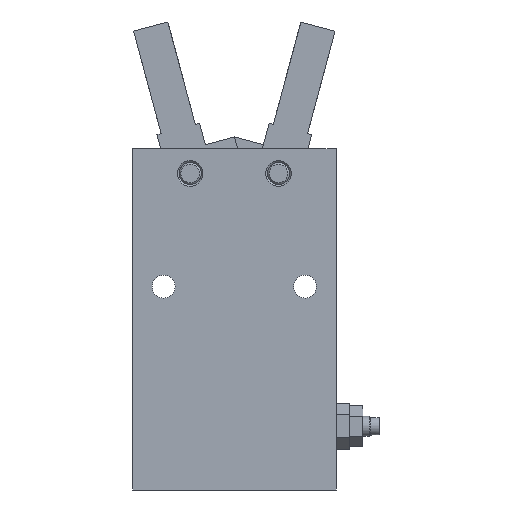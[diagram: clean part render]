
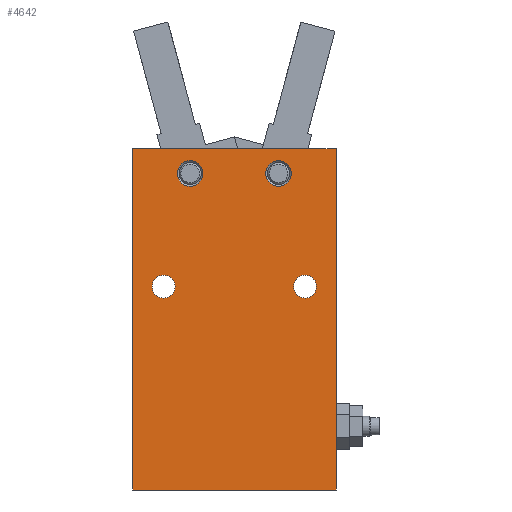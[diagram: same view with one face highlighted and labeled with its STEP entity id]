
A CAD part, front view. The second image highlights one B-rep face of the part: STEP entity #4642.
In plain terms, the highlighted planar face has unit normal (0, -1, 0).
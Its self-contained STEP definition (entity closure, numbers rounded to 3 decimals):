
#21 = EDGE_CURVE ( 'NONE', #873, #875, #1456, .T. ) ;
#84 = VERTEX_POINT ( 'NONE', #1532 ) ;
#234 = VERTEX_POINT ( 'NONE', #1751 ) ;
#235 = EDGE_CURVE ( 'NONE', #234, #236, #1750, .T. ) ;
#236 = VERTEX_POINT ( 'NONE', #1746 ) ;
#240 = EDGE_CURVE ( 'NONE', #833, #828, #1805, .T. ) ;
#785 = VERTEX_POINT ( 'NONE', #2629 ) ;
#787 = EDGE_CURVE ( 'NONE', #785, #789, #2627, .T. ) ;
#789 = VERTEX_POINT ( 'NONE', #2628 ) ;
#828 = VERTEX_POINT ( 'NONE', #2749 ) ;
#832 = EDGE_CURVE ( 'NONE', #828, #833, #2741, .T. ) ;
#833 = VERTEX_POINT ( 'NONE', #2737 ) ;
#873 = VERTEX_POINT ( 'NONE', #2788 ) ;
#874 = EDGE_CURVE ( 'NONE', #875, #873, #2787, .T. ) ;
#875 = VERTEX_POINT ( 'NONE', #2782 ) ;
#1296 = EDGE_CURVE ( 'NONE', #1298, #1306, #3575, .T. ) ;
#1298 = VERTEX_POINT ( 'NONE', #3570 ) ;
#1306 = VERTEX_POINT ( 'NONE', #3561 ) ;
#1452 = DIRECTION ( 'NONE',  ( 0., 0., -1. ) ) ;
#1453 = DIRECTION ( 'NONE',  ( 0., 1., 0. ) ) ;
#1454 = CARTESIAN_POINT ( 'NONE',  ( -8., -8.2, 3.7 ) ) ;
#1455 = AXIS2_PLACEMENT_3D ( 'NONE', #1454, #1453, #1452 ) ;
#1456 = CIRCLE ( 'NONE', #1455, 1.3 ) ;
#1532 = CARTESIAN_POINT ( 'NONE',  ( 11.5, -8.2, -19.3 ) ) ;
#1745 = CARTESIAN_POINT ( 'NONE',  ( 8., -8.2, 3.7 ) ) ;
#1746 = CARTESIAN_POINT ( 'NONE',  ( -11.5, -8.2, -19.3 ) ) ;
#1747 = DIRECTION ( 'NONE',  ( 0., 0., -1. ) ) ;
#1748 = VECTOR ( 'NONE', #1747, 1000. ) ;
#1749 = CARTESIAN_POINT ( 'NONE',  ( -11.5, -8.2, -19.3 ) ) ;
#1750 = LINE ( 'NONE', #1749, #1748 ) ;
#1751 = CARTESIAN_POINT ( 'NONE',  ( -11.5, -8.2, 19.3 ) ) ;
#1802 = DIRECTION ( 'NONE',  ( 0., 0., 1. ) ) ;
#1803 = DIRECTION ( 'NONE',  ( 0., 1., 0. ) ) ;
#1804 = AXIS2_PLACEMENT_3D ( 'NONE', #1745, #1803, #1802 ) ;
#1805 = CIRCLE ( 'NONE', #1804, 1.3 ) ;
#2623 = DIRECTION ( 'NONE',  ( 0., 0., 1. ) ) ;
#2624 = DIRECTION ( 'NONE',  ( 0., 1., 0. ) ) ;
#2625 = CARTESIAN_POINT ( 'NONE',  ( -5., -8.2, 16.5 ) ) ;
#2626 = AXIS2_PLACEMENT_3D ( 'NONE', #2625, #2624, #2623 ) ;
#2627 = CIRCLE ( 'NONE', #2626, 1.45 ) ;
#2628 = CARTESIAN_POINT ( 'NONE',  ( -5., -8.2, 17.95 ) ) ;
#2629 = CARTESIAN_POINT ( 'NONE',  ( -5., -8.2, 15.05 ) ) ;
#2737 = CARTESIAN_POINT ( 'NONE',  ( 8., -8.2, 5. ) ) ;
#2738 = DIRECTION ( 'NONE',  ( 0., 0., 1. ) ) ;
#2739 = DIRECTION ( 'NONE',  ( 0., 1., 0. ) ) ;
#2740 = AXIS2_PLACEMENT_3D ( 'NONE', #2747, #2739, #2738 ) ;
#2741 = CIRCLE ( 'NONE', #2740, 1.3 ) ;
#2747 = CARTESIAN_POINT ( 'NONE',  ( 8., -8.2, 3.7 ) ) ;
#2749 = CARTESIAN_POINT ( 'NONE',  ( 8., -8.2, 2.4 ) ) ;
#2782 = CARTESIAN_POINT ( 'NONE',  ( -8., -8.2, 2.4 ) ) ;
#2783 = DIRECTION ( 'NONE',  ( 0., 0., -1. ) ) ;
#2784 = DIRECTION ( 'NONE',  ( 0., 1., 0. ) ) ;
#2785 = CARTESIAN_POINT ( 'NONE',  ( -8., -8.2, 3.7 ) ) ;
#2786 = AXIS2_PLACEMENT_3D ( 'NONE', #2785, #2784, #2783 ) ;
#2787 = CIRCLE ( 'NONE', #2786, 1.3 ) ;
#2788 = CARTESIAN_POINT ( 'NONE',  ( -8., -8.2, 5. ) ) ;
#3561 = CARTESIAN_POINT ( 'NONE',  ( 5., -8.2, 17.95 ) ) ;
#3570 = CARTESIAN_POINT ( 'NONE',  ( 5., -8.2, 15.05 ) ) ;
#3571 = DIRECTION ( 'NONE',  ( 0., 0., 1. ) ) ;
#3572 = DIRECTION ( 'NONE',  ( 0., 1., 0. ) ) ;
#3573 = CARTESIAN_POINT ( 'NONE',  ( 5., -8.2, 16.5 ) ) ;
#3574 = AXIS2_PLACEMENT_3D ( 'NONE', #3573, #3572, #3571 ) ;
#3575 = CIRCLE ( 'NONE', #3574, 1.45 ) ;
#3820 = DIRECTION ( 'NONE',  ( 0., 0., -1. ) ) ;
#3821 = VECTOR ( 'NONE', #3820, 1000. ) ;
#3822 = CARTESIAN_POINT ( 'NONE',  ( 11.5, -8.2, -19.3 ) ) ;
#3823 = LINE ( 'NONE', #3822, #3821 ) ;
#3891 = DIRECTION ( 'NONE',  ( 0., 0., 1. ) ) ;
#3892 = DIRECTION ( 'NONE',  ( 0., 1., 0. ) ) ;
#3893 = CARTESIAN_POINT ( 'NONE',  ( -5., -8.2, 16.5 ) ) ;
#3894 = AXIS2_PLACEMENT_3D ( 'NONE', #3893, #3892, #3891 ) ;
#3895 = CIRCLE ( 'NONE', #3894, 1.45 ) ;
#3896 = DIRECTION ( 'NONE',  ( 0., 0., 1. ) ) ;
#3897 = DIRECTION ( 'NONE',  ( 0., 1., 0. ) ) ;
#3898 = CARTESIAN_POINT ( 'NONE',  ( 5., -8.2, 16.5 ) ) ;
#3899 = AXIS2_PLACEMENT_3D ( 'NONE', #3898, #3897, #3896 ) ;
#3900 = CIRCLE ( 'NONE', #3899, 1.45 ) ;
#3911 = DIRECTION ( 'NONE',  ( -1., 0., 0. ) ) ;
#3912 = VECTOR ( 'NONE', #3911, 1000. ) ;
#3913 = CARTESIAN_POINT ( 'NONE',  ( 11.5, -8.2, 19.3 ) ) ;
#3914 = LINE ( 'NONE', #3913, #3912 ) ;
#3920 = LINE ( 'NONE', #3985, #3984 ) ;
#3939 = DIRECTION ( 'NONE',  ( 0., 0., 1. ) ) ;
#3940 = DIRECTION ( 'NONE',  ( 0., 1., 0. ) ) ;
#3941 = CARTESIAN_POINT ( 'NONE',  ( 11.5, -8.2, -19.3 ) ) ;
#3942 = AXIS2_PLACEMENT_3D ( 'NONE', #3941, #3940, #3939 ) ;
#3944 = PLANE ( 'NONE',  #3942 ) ;
#3945 = FACE_OUTER_BOUND ( 'NONE', #4658, .T. ) ;
#3946 = FACE_BOUND ( 'NONE', #4626, .T. ) ;
#3947 = FACE_BOUND ( 'NONE', #4632, .T. ) ;
#3948 = FACE_BOUND ( 'NONE', #4634, .T. ) ;
#3954 = FACE_BOUND ( 'NONE', #4638, .T. ) ;
#3965 = CARTESIAN_POINT ( 'NONE',  ( 11.5, -8.2, 19.3 ) ) ;
#3983 = DIRECTION ( 'NONE',  ( -1., 0., 0. ) ) ;
#3984 = VECTOR ( 'NONE', #3983, 1000. ) ;
#3985 = CARTESIAN_POINT ( 'NONE',  ( 11.5, -8.2, -19.3 ) ) ;
#4517 = EDGE_CURVE ( 'NONE', #4677, #84, #3823, .T. ) ;
#4618 = EDGE_CURVE ( 'NONE', #4677, #234, #3914, .T. ) ;
#4626 = EDGE_LOOP ( 'NONE', ( #4664, #4666 ) ) ;
#4627 = ORIENTED_EDGE ( 'NONE', *, *, #21, .T. ) ;
#4628 = ORIENTED_EDGE ( 'NONE', *, *, #874, .T. ) ;
#4630 = ORIENTED_EDGE ( 'NONE', *, *, #4631, .T. ) ;
#4631 = EDGE_CURVE ( 'NONE', #1306, #1298, #3900, .T. ) ;
#4632 = EDGE_LOOP ( 'NONE', ( #4627, #4628 ) ) ;
#4633 = EDGE_CURVE ( 'NONE', #789, #785, #3895, .T. ) ;
#4634 = EDGE_LOOP ( 'NONE', ( #4635, #4630 ) ) ;
#4635 = ORIENTED_EDGE ( 'NONE', *, *, #1296, .T. ) ;
#4636 = ORIENTED_EDGE ( 'NONE', *, *, #4633, .T. ) ;
#4637 = ORIENTED_EDGE ( 'NONE', *, *, #787, .T. ) ;
#4638 = EDGE_LOOP ( 'NONE', ( #4637, #4636 ) ) ;
#4642 = ADVANCED_FACE ( 'NONE', ( #3954, #3948, #3947, #3946, #3945 ), #3944, .F. ) ;
#4646 = ORIENTED_EDGE ( 'NONE', *, *, #4517, .F. ) ;
#4651 = ORIENTED_EDGE ( 'NONE', *, *, #4618, .T. ) ;
#4655 = EDGE_CURVE ( 'NONE', #84, #236, #3920, .T. ) ;
#4656 = ORIENTED_EDGE ( 'NONE', *, *, #4655, .F. ) ;
#4658 = EDGE_LOOP ( 'NONE', ( #4659, #4656, #4646, #4651 ) ) ;
#4659 = ORIENTED_EDGE ( 'NONE', *, *, #235, .T. ) ;
#4664 = ORIENTED_EDGE ( 'NONE', *, *, #240, .T. ) ;
#4666 = ORIENTED_EDGE ( 'NONE', *, *, #832, .T. ) ;
#4677 = VERTEX_POINT ( 'NONE', #3965 ) ;
